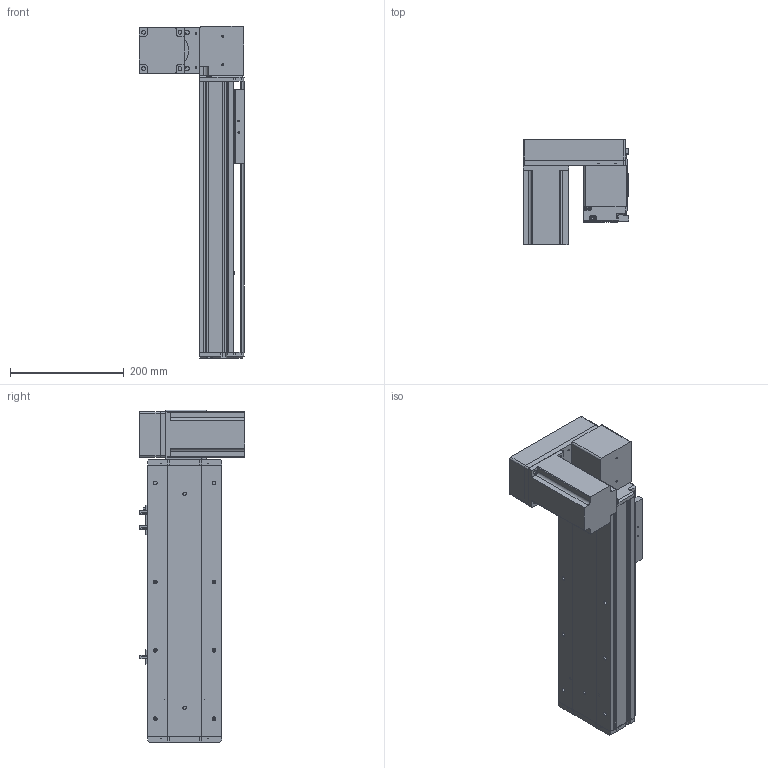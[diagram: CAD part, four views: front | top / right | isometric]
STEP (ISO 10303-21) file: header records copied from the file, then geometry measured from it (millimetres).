
FILE_DESCRIPTION (( 'STEP AP214' ), '1' );
FILE_NAME ('KSD130B-S250-MRD-CM .STEP', '2019-11-15T08:15:14', ( '微软用户' ), ( '微软中国' ), 'SwSTEP 2.0', 'SolidWorks 2014', '' );
FILE_SCHEMA (( 'AUTOMOTIVE_DESIGN' ));
Length unit declared in the file: millimetre
Products named in the file (12): 130宽同步带安装座半封闭; 130宽端盖同步带半封闭; 130宽底板半封闭同步带-250行程; KSD130B-S250-MRD-CM ; 130宽模组保护罩上下左右折-同步带; 台达ECMA－C20807AS伺服电机; 130宽模组马达安装板连板上下折丝杆同步带; 覜茼え100遵圉猾敕; U倰嫖萇EEㄜSX672; 130宽盖板半封闭同步带-250行程; 130宽马达安装板同步带右-改镜向_默认<按加工>; 130宽马达安装板同步带半封闭
Assembly tree (13 placements, depth 2):
  KSD130B-S250-MRD-CM 
    130宽底板半封闭同步带-250行程
    130宽端盖同步带半封闭
    130宽同步带安装座半封闭
    130宽马达安装板同步带半封闭
    130宽马达安装板同步带右-改镜向_默认<按加工>
    130宽盖板半封闭同步带-250行程
    U倰嫖萇EEㄜSX672  x3
    覜茼え100遵圉猾敕
    130宽模组马达安装板连板上下折丝杆同步带
    台达ECMA－C20807AS伺服电机
    130宽模组保护罩上下左右折-同步带
Bounding box: 186 x 184.8 x 583 mm (x, y, z)
Volume: 2943365.4 mm3; surface area: 735644.5 mm2
Topology: 14 solids, 14 shells, 1345 faces, 3745 edges, 2411 vertices
Faces by surface type: cylinder 620, plane 598, cone 127
Entity records: 42179 total; most frequent: CARTESIAN_POINT 7340, DIRECTION 6519, ORIENTED_EDGE 6222, EDGE_CURVE 3111, AXIS2_PLACEMENT_3D 2350, VERTEX_POINT 2035, VECTOR 1819, LINE 1819
